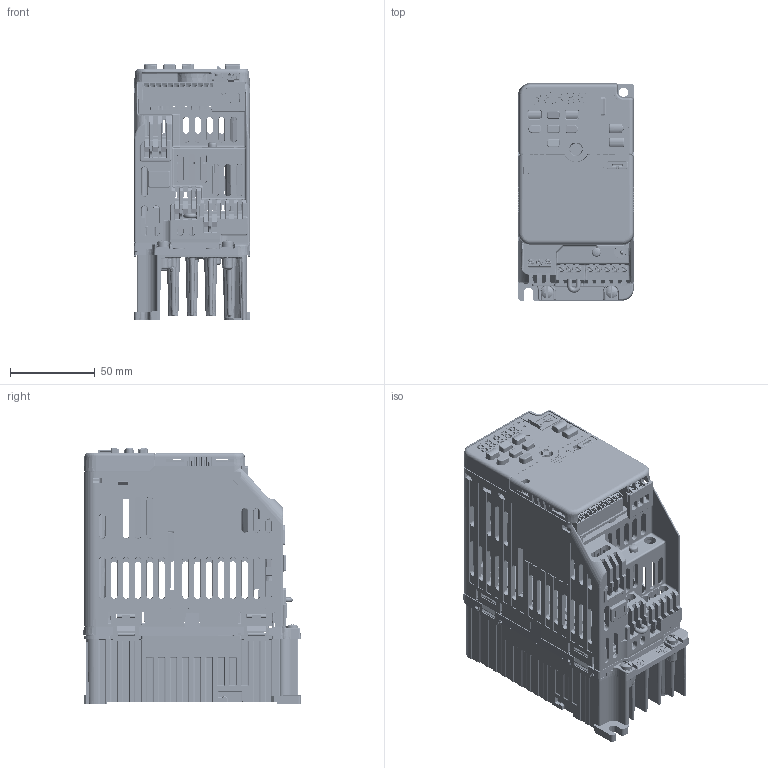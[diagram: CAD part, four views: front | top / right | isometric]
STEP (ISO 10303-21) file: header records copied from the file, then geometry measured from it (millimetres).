
FILE_DESCRIPTION((''),'2;1');
FILE_NAME('GA500_EMC_FRAME_V1-B_ASM','2019-03-08T',('jam'),('YASKAWA ELECTRIC CORCORATION'),'PRO/ENGINEER BY PARAMETRIC TECHNOLOGY CORPORATION, 2015440','PRO/ENGINEER BY PARAMETRIC TECHNOLOGY CORPORATION, 2015440','');
FILE_SCHEMA(('CONFIG_CONTROL_DESIGN'));
Products named in the file (51): LAY_KIPR-GA50_Q_2004_1; 400-104-191_1; SCAT41159-101_1; 400-098-617_1; 400-098-640-01F-5_6PCB_1; MKDSN2P5_5_1; ETP760431_6PCB_ASM_1_ASM; 400-098-640-01F-5_5PCB_AF1_1; SPTA1_3-5P0_1; MKDSN2P5_3_1; ETP761871_5PCB_ASM_1_ASM; 400-098-641-02D-4_1; ETX731410_ASM_1_ASM; GA500_V1_EMC_200V_ASM_1_ASM; 400-098-621_1; HSR-M3-5P3_1; 400-098-621_ASM_1_ASM; PRT0112; PRT0113; PRT0114; 1734753-1_AF1_1; DHB-PD20-S131N-4P9_AF1_1; KARI_SPTA1_9-3P5_AF0_1; KARI_SPTA1_8-3P5_AF0_1; SPTA1_11-3P5_AF0_1; SPTA1_3-5P0_AF0_1; ASM0001_ASM; PRT0115; PRT0116; PRT0117; PRT0118; PRT0119; 55265-0811_AF0_1; PRT0120; ASM0003_ASM; ASM0002_ASM; PRT0121; PRT0122; 400-115-297-001_1; MS15_M3X16_1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
Assembly tree (52 placements, depth 5):
  GA500_EMC_FRAME_V1-B_ASM
    KIPR-GA50_Q_2004_ASM_2_ASM
      LAY_KIPR-GA50_Q_2004_1
      400-104-191_1
      SCAT41159-101_1  x2
      400-098-617_1
      ETP760431_6PCB_ASM_1_ASM
        400-098-640-01F-5_6PCB_1
        MKDSN2P5_5_1
      ETP761871_5PCB_ASM_1_ASM
        400-098-640-01F-5_5PCB_AF1_1
        SPTA1_3-5P0_1
        MKDSN2P5_3_1
      GA500_V1_EMC_200V_ASM_1_ASM
        ETX731410_ASM_1_ASM
          400-098-641-02D-4_1
          MKDSN2P5_3_1
      400-098-621_ASM_1_ASM
        400-098-621_1
        HSR-M3-5P3_1
      ASM0001_ASM
        PRT0112
        PRT0113
        PRT0114
        1734753-1_AF1_1
        DHB-PD20-S131N-4P9_AF1_1
        KARI_SPTA1_9-3P5_AF0_1
        KARI_SPTA1_8-3P5_AF0_1
        SPTA1_11-3P5_AF0_1
        SPTA1_3-5P0_AF0_1
      ASM0002_ASM
        PRT0115
        PRT0116
        PRT0117
        PRT0118
        ASM0003_ASM
          PRT0119
          55265-0811_AF0_1
          PRT0120
      PRT0121
      PRT0122
      400-115-297-001_1
      MS15_M3X16_1
      400-108-079_1
      PRT0123
      PRT0124
      PRT0125
      400-104-206_1_1
      400-118-612_1_1
      400-118-612_2_1
      400-118-612_3_1
      400-104-204_5_1
Bounding box: 68.55 x 128.29 x 150.75 mm (x, y, z)
Volume: 286904.5 mm3; surface area: 270344.6 mm2
Topology: 41 solids, 46 shells, 14193 faces, 39059 edges, 25038 vertices
Faces by surface type: plane 9461, cylinder 2644, cone 833, bspline 704, torus 301, sphere 250
Entity records: 473430 total; most frequent: CARTESIAN_POINT 127160, ORIENTED_EDGE 75554, DIRECTION 66271, EDGE_CURVE 37779, VECTOR 27571, LINE 27571, VERTEX_POINT 24379, AXIS2_PLACEMENT_3D 19350
